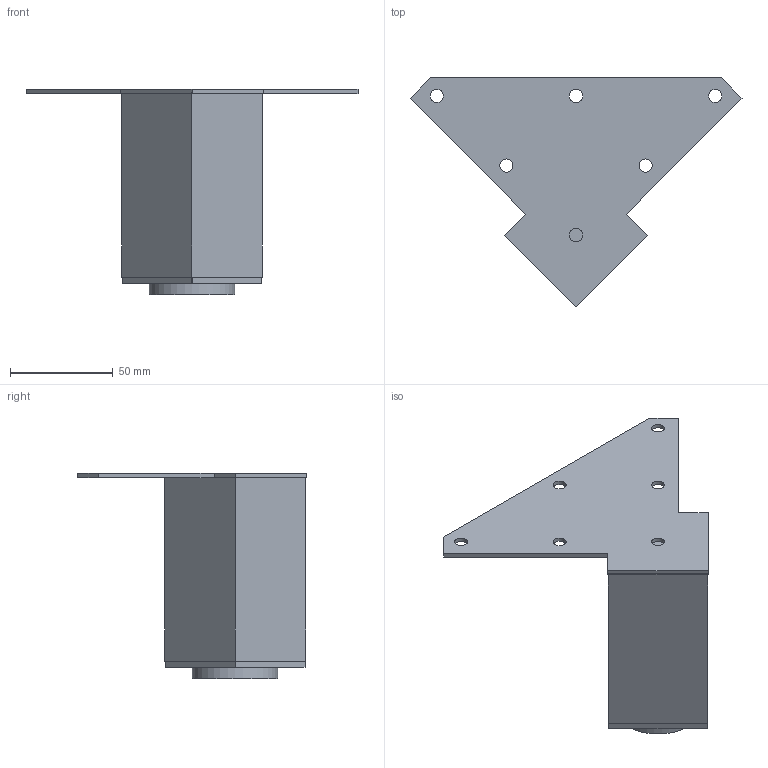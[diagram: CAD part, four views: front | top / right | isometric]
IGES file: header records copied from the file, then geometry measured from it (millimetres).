
Start section: Data from Parasolid IGES Translator 20.0.26, Copyright(c) 2006 Siemens P LM Software. All Rights Reserved.
Global section: file name: 9206865.igs; native system: By Siemens PLM Incorporated; preprocessor: XPlus GENERIC/IGES 20.0.26; author: Noname; organization: Noname; date: 20210125.173558; units: millimetre
Bounding box: 161.93 x 111.37 x 100 mm (x, y, z)
Surface area: 38076.7 mm2 (no closed solid volume)
Topology: 0 solids, 0 shells, 30 faces, 144 edges, 138 vertices
Faces by surface type: extrusion 23, revolution 7
